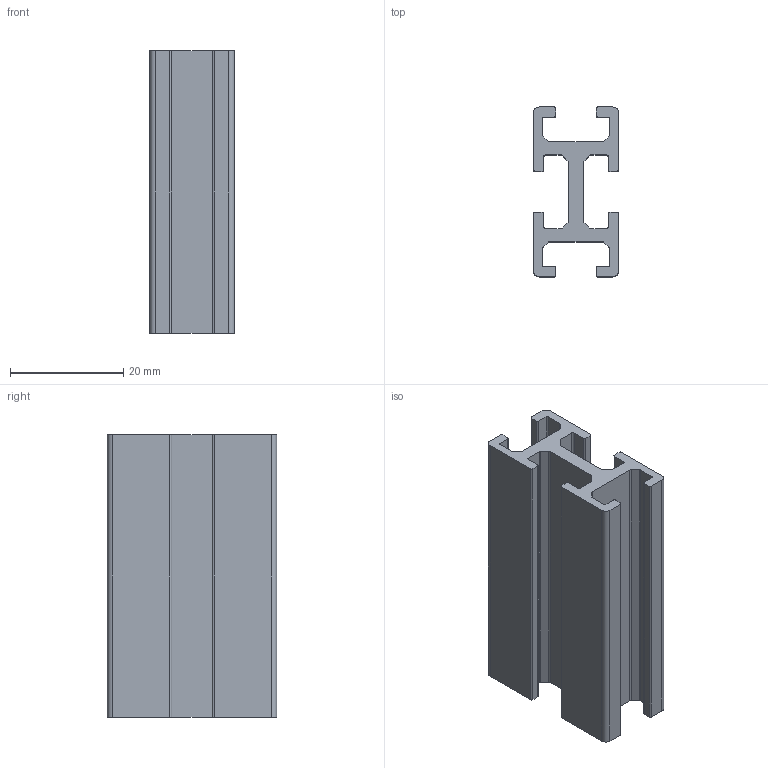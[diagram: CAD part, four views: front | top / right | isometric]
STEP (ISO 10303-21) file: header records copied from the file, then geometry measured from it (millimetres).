
FILE_DESCRIPTION(('STEP AP214'),'1');
FILE_NAME('F153-.stp','2017-07-14T08:12:12',(' '),(' '),'Spatial InterOp 3D',' ',' ');
FILE_SCHEMA(('automotive_design'));
Length unit declared in the file: millimetre
Products named in the file (1): F153-
Bounding box: 15 x 30 x 50 mm (x, y, z)
Volume: 9146.9 mm3; surface area: 8934 mm2
Topology: 1 solids, 1 shells, 90 faces, 264 edges, 176 vertices
Faces by surface type: plane 46, cylinder 44
Entity records: 3752 total; most frequent: DIRECTION 534, CARTESIAN_POINT 531, ORIENTED_EDGE 528, EDGE_CURVE 264, AXIS2_PLACEMENT_3D 179, VERTEX_POINT 176, LINE 176, VECTOR 176
